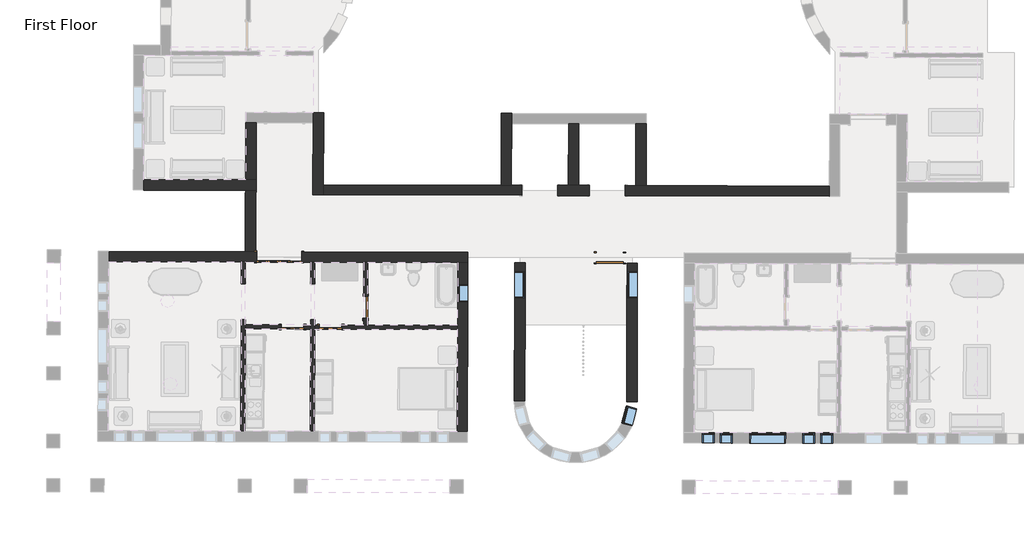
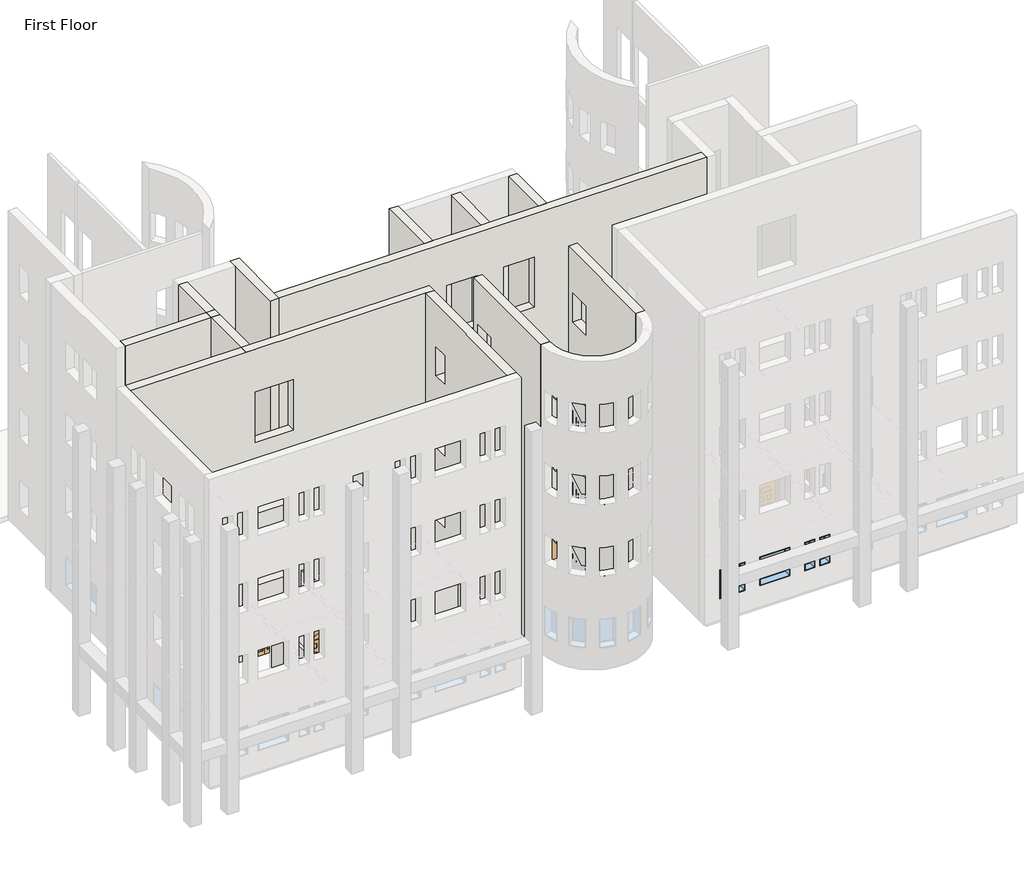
# One storey, part 3 of 23: 16 walls, 9 windows, 5 doors.
"""IFC4 building model written with IfcOpenShell, lengths in millimetres."""

from ifc_helpers import new_model, si_unit, frame, origin, origin_with_axes, place, context, project, spatial, polyline, outline, extrude, faceted_brep, transform, mapped, element, save
from components import m_bifold_4_panel_1525_x_2134mm_1ddae71f, m_single_decorative_2_0762_x_2134mm_0d0af7cb, m_single_decorative_2_0762_x_2134mm_2fe67c8e, m_single_flush_0762_x_2134mm_0d89e411, m_single_flush_0915_x_2134mm_70678a7c, m_fixed_0406_x_1220mm_57fee329, m_fixed_0406_x_1220mm_85c28f40, m_fixed_0610_x_1220mm_2c28ef1d, m_fixed_0915_x_1220mm_2a2509e7, m_fixed_1220_x_1220mm_8f5f8ad3

model = new_model("IFC4")

# Units and contexts
model_context = context("Model", 3, world=origin())
ifc_project = project(units=[si_unit("LENGTHUNIT", "METRE", prefix="MILLI")], contexts=[model_context])

# Site, building, storey
site = spatial("IfcSite", under=ifc_project)
building = spatial("IfcBuilding", under=site)
storey = spatial("IfcBuildingStorey", under=building, Name="First Floor", Elevation=0.0)

# Doors
placement = place(None, origin())
m_bifold_4_panel_1525_x_2134mm_shape = m_bifold_4_panel_1525_x_2134mm_1ddae71f(model_context)
element("IfcDoor", 1, ObjectType="M_Bifold-4 Panel : 1525 x 2134mm", at=placement, inside=storey, context=model_context, shape_type="MappedRepresentation", body=[
    mapped(m_bifold_4_panel_1525_x_2134mm_shape, transform((-29084.8596063, -35825.933405, 0.0), x_axis=(-0.9999958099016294, 0.0028948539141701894, 0.0), y_axis=(-0.0028948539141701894, -0.9999958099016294, 0.0), z_axis=(0.0, 0.0, 1.0))),
])
m_single_decorative_2_0762_x_2134mm_shape = m_single_decorative_2_0762_x_2134mm_0d0af7cb(model_context)
element("IfcDoor", 2, ObjectType="M_Single-Decorative 2 : 0762 x 2134mm", at=placement, inside=storey, context=model_context, shape_type="MappedRepresentation", body=[
    mapped(m_single_decorative_2_0762_x_2134mm_shape, transform((-28625.491904, -38204.0231719, 0.0), x_axis=(0.9999958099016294, -0.0028948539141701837, 0.0), y_axis=(0.0028948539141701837, 0.9999958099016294, 0.0), z_axis=(0.0, 0.0, 1.0))),
])
m_single_decorative_2_0762_x_2134mm_2_shape = m_single_decorative_2_0762_x_2134mm_2fe67c8e(model_context)
element("IfcDoor", 3, ObjectType="M_Single-Decorative 2 : 0762 x 2134mm", at=placement, inside=storey, context=model_context, shape_type="MappedRepresentation", body=[
    mapped(m_single_decorative_2_0762_x_2134mm_2_shape, transform((-27338.7472956, -38207.7481251, 0.0), x_axis=(-0.9999958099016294, 0.0028948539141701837, 0.0), y_axis=(-0.0028948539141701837, -0.9999958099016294, 0.0), z_axis=(0.0, 0.0, 1.0))),
])
m_single_flush_0762_x_2134mm_shape = m_single_flush_0762_x_2134mm_0d89e411(model_context)
element("IfcDoor", 4, ObjectType="M_Single-Flush : 0762 x 2134mm", at=placement, inside=storey, context=model_context, shape_type="MappedRepresentation", body=[
    mapped(m_single_flush_0762_x_2134mm_shape, transform((-26146.2902967, -37533.4472886, 0.0), x_axis=(-0.0028948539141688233, -0.9999958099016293, 0.0), y_axis=(0.9999958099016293, -0.0028948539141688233, 0.0), z_axis=(0.0, 0.0, 1.0))),
])
m_single_flush_0915_x_2134mm_shape = m_single_flush_0915_x_2134mm_70678a7c(model_context)
element("IfcDoor", 5, ObjectType="M_Single-Flush : 0915 x 2134mm", at=placement, inside=storey, context=model_context, shape_type="MappedRepresentation", body=[
    mapped(m_single_flush_0915_x_2134mm_shape, transform((-17860.906636, -35858.4252454, 0.0), x_axis=(0.9999958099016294, -0.0028948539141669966, 0.0), y_axis=(0.0028948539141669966, 0.9999958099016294, 0.0), z_axis=(0.0, 0.0, 1.0))),
])

# Walls
element("IfcWall", 6, ObjectType="Exterior - Brick on Mtl. Stud", at=placement, inside=storey, context=model_context, shape_type="Brep", body=[
    faceted_brep([(-27585.7548255, -33719.2642672, 0.0), (-27584.7416267, -33369.2657338, 0.0), (-27577.6828149, -30930.8759509, 0.0), (-27577.6828149, -30930.8759509, 13107.0), (-27584.7416267, -33369.2657338, 13107.0), (-27585.7548255, -33719.2642672, 13107.0), (-27935.753359, -33718.2510684, 0.0), (-27935.753359, -33718.2510684, 13107.0), (-27928.6945472, -31279.8612855, 13107.0), (-27928.6864352, -31277.0590728, 13107.0), (-27927.6813484, -30929.862752, 13107.0), (-27927.6813484, -30929.862752, 0.0), (-27928.6864352, -31277.0590728, 0.0), (-27928.6945472, -31279.8612855, 0.0), (-27578.1870186, -30930.8744913, 0.0), (-27578.1870186, -30930.8744913, 13107.0)], [[[0, 1, 2, 3, 4, 5]], [[6, 7, 8, 9, 10, 11, 12, 13]], [[2, 1, 0, 6, 13, 12, 11, 14]], [[5, 4, 3, 15, 10, 9, 8, 7]], [[3, 2, 14, 11, 10, 15]], [[0, 5, 7, 6]]]),
])
element("IfcWall", 7, ObjectType="Exterior - Brick on Mtl. Stud", at=placement, inside=storey, context=model_context, shape_type="Brep", body=[
    faceted_brep([(-30214.6849687, -31273.2436495, 0.0), (-30227.8258685, -35812.6246289, 0.0), (-30228.3614165, -35997.6238538, 0.0), (-30228.3614165, -35997.6238538, 13107.0), (-30214.6849687, -31273.2436495, 13107.0), (-29864.6864352, -31274.2568483, 0.0), (-29864.6864352, -31274.2568483, 13107.0), (-29877.3496842, -35648.6385192, 13107.0), (-29878.362883, -35998.6370526, 13107.0), (-29878.362883, -35998.6370526, 0.0), (-29877.827335, -35813.6378278, 0.0), (-29877.3496842, -35648.6385192, 0.0), (-30029.6857438, -31273.7791974, 0.0), (-30043.3621917, -35998.1594017, 0.0), (-30042.8266437, -35813.1601769, 0.0)], [[[0, 1, 2, 3, 4]], [[5, 6, 7, 8, 9, 10, 11]], [[4, 3, 8, 7, 6]], [[0, 4, 6, 5, 12]], [[3, 2, 13, 9, 8]], [[10, 9, 13, 14]], [[1, 0, 12, 14]], [[2, 1, 14, 13]], [[12, 5, 11, 10, 14]]]),
])
element("IfcWall", 8, ObjectType="Exterior - Brick on Mtl. Stud", at=placement, inside=storey, context=model_context, shape_type="Brep", body=[
    faceted_brep([(-18557.7794507, -33395.3975801, 0.0), (-18915.7779506, -33394.3612224, 0.0), (-19265.7764841, -33393.3480235, 0.0), (-19623.774984, -33392.3116658, 0.0), (-19623.774984, -33392.3116658, 2134.0), (-20843.7698721, -33388.779944, 2134.0), (-20843.7698721, -33388.779944, 0.0), (-21201.7683721, -33387.7435863, 0.0), (-21551.7669055, -33386.7303874, 0.0), (-27584.7416267, -33369.2657338, 0.0), (-27584.7416267, -33369.2657338, 13107.0), (-21551.7669055, -33386.7303874, 13107.0), (-21201.7683721, -33387.7435863, 13107.0), (-19265.7764841, -33393.3480235, 13107.0), (-18915.7779506, -33394.3612224, 13107.0), (-16979.7860627, -33399.9656595, 13107.0), (-16629.7875292, -33400.9788584, 13107.0), (-10408.8135958, -33418.9877446, 13107.0), (-10408.8135958, -33418.9877446, 0.0), (-16629.7875292, -33400.9788584, 0.0), (-16979.7860627, -33399.9656595, 0.0), (-17337.7845626, -33398.9293018, 0.0), (-17337.7845626, -33398.9293018, 2134.0), (-18557.7794507, -33395.3975801, 2134.0), (-20843.7698721, -33388.779944, 11278.0), (-20843.7698721, -33388.779944, 9144.0), (-19623.774984, -33392.3116658, 9144.0), (-19623.774984, -33392.3116658, 11278.0), (-17337.7845626, -33398.9293018, 11278.0), (-18557.7794507, -33395.3975801, 11278.0), (-18557.7794507, -33395.3975801, 9144.0), (-17337.7845626, -33398.9293018, 9144.0), (-20843.7698721, -33388.779944, 5182.0), (-20843.7698721, -33388.779944, 3048.0), (-19623.774984, -33392.3116658, 3048.0), (-19623.774984, -33392.3116658, 5182.0), (-17337.7845626, -33398.9293018, 5182.0), (-18557.7794507, -33395.3975801, 5182.0), (-18557.7794507, -33395.3975801, 3048.0), (-17337.7845626, -33398.9293018, 3048.0), (-20843.7698721, -33388.779944, 8230.0), (-20843.7698721, -33388.779944, 6096.0), (-19623.774984, -33392.3116658, 6096.0), (-19623.774984, -33392.3116658, 8230.0), (-17337.7845626, -33398.9293018, 8230.0), (-18557.7794507, -33395.3975801, 8230.0), (-18557.7794507, -33395.3975801, 6096.0), (-17337.7845626, -33398.9293018, 6096.0), (-19624.7881829, -33742.3101992, 2134.0), (-19624.7881829, -33742.3101992, 0.0), (-18558.7926496, -33745.3961135, 0.0), (-18558.7926496, -33745.3961135, 2134.0), (-17338.7977615, -33748.9278353, 2134.0), (-17338.7977615, -33748.9278353, 0.0), (-10409.8267947, -33768.9862781, 0.0), (-10409.8267947, -33768.9862781, 13107.0), (-27585.7548255, -33719.2642672, 13107.0), (-27585.7548255, -33719.2642672, 0.0), (-20844.783071, -33738.7784775, 0.0), (-20844.783071, -33738.7784775, 2134.0), (-20844.783071, -33738.7784775, 11278.0), (-19624.7881829, -33742.3101992, 11278.0), (-19624.7881829, -33742.3101992, 9144.0), (-20844.783071, -33738.7784775, 9144.0), (-17338.7977615, -33748.9278353, 11278.0), (-17338.7977615, -33748.9278353, 9144.0), (-18558.7926496, -33745.3961135, 9144.0), (-18558.7926496, -33745.3961135, 11278.0), (-20844.783071, -33738.7784775, 5182.0), (-19624.7881829, -33742.3101992, 5182.0), (-19624.7881829, -33742.3101992, 3048.0), (-20844.783071, -33738.7784775, 3048.0), (-17338.7977615, -33748.9278353, 5182.0), (-17338.7977615, -33748.9278353, 3048.0), (-18558.7926496, -33745.3961135, 3048.0), (-18558.7926496, -33745.3961135, 5182.0), (-20844.783071, -33738.7784775, 8230.0), (-19624.7881829, -33742.3101992, 8230.0), (-19624.7881829, -33742.3101992, 6096.0), (-20844.783071, -33738.7784775, 6096.0), (-17338.7977615, -33748.9278353, 8230.0), (-17338.7977615, -33748.9278353, 6096.0), (-18558.7926496, -33745.3961135, 6096.0), (-18558.7926496, -33745.3961135, 8230.0)], [[[0, 1, 2, 3, 4, 5, 6, 7, 8, 9, 10, 11, 12, 13, 14, 15, 16, 17, 18, 19, 20, 21, 22, 23], [24, 25, 26, 27], [28, 29, 30, 31], [32, 33, 34, 35], [36, 37, 38, 39], [40, 41, 42, 43], [44, 45, 46, 47]], [[48, 49, 50, 51, 52, 53, 54, 55, 56, 57, 58, 59], [60, 61, 62, 63], [64, 65, 66, 67], [68, 69, 70, 71], [72, 73, 74, 75], [76, 77, 78, 79], [80, 81, 82, 83]], [[58, 57, 9, 8, 7, 6]], [[50, 49, 3, 2, 1, 0]], [[21, 20, 19, 18, 54, 53]], [[17, 16, 15, 14, 13, 12, 11, 10, 56, 55]], [[10, 9, 57, 56]], [[18, 17, 55, 54]], [[53, 52, 22, 21]], [[51, 50, 0, 23]], [[52, 51, 23, 22]], [[6, 5, 59, 58]], [[4, 3, 49, 48]], [[5, 4, 48, 59]], [[25, 24, 60, 63]], [[26, 25, 63, 62]], [[27, 26, 62, 61]], [[24, 27, 61, 60]], [[65, 64, 28, 31]], [[66, 65, 31, 30]], [[67, 66, 30, 29]], [[64, 67, 29, 28]], [[33, 32, 68, 71]], [[34, 33, 71, 70]], [[35, 34, 70, 69]], [[32, 35, 69, 68]], [[73, 72, 36, 39]], [[74, 73, 39, 38]], [[75, 74, 38, 37]], [[72, 75, 37, 36]], [[41, 40, 76, 79]], [[42, 41, 79, 78]], [[43, 42, 78, 77]], [[40, 43, 77, 76]], [[81, 80, 44, 47]], [[82, 81, 47, 46]], [[83, 82, 46, 45]], [[80, 83, 45, 44]]]),
])
element("IfcWall", 9, ObjectType="Exterior - Brick on Mtl. Stud", at=placement, inside=storey, context=model_context, shape_type="SweptSolid", body=[
    extrude(outline(polyline([(1097.9999999, 0.0), (5800.0, 0.0), (5800.0, -13107.0), (1097.9999999, -13107.0), (1097.9999999, 0.0)]), holes=[polyline([(4602.4999999, -915.0), (4602.4999999, -2135.0), (5517.5, -2135.0), (5517.5, -915.0), (4602.4999999, -915.0)]), polyline([(4602.4999999, -10059.0), (4602.4999999, -11279.0), (5517.5, -11279.0), (5517.5, -10059.0), (4602.4999999, -10059.0)]), polyline([(4602.4999999, -3963.0), (4602.4999999, -5183.0), (5517.5, -5183.0), (5517.5, -3963.0), (4602.4999999, -3963.0)]), polyline([(4602.4999999, -7011.0), (4602.4999999, -8231.0), (5517.5, -8231.0), (5517.5, -7011.0), (4602.4999999, -7011.0)])]), frame((-20751.19135, -41825.0832942, 0.0), z_axis=(-0.9999958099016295, 0.002894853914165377, 0.0), x_axis=(0.002894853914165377, 0.9999958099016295, 0.0)), (0.0, 0.0, 1.0), 350.0),
])
element("IfcWall", 10, ObjectType="Exterior - Brick on Mtl. Stud", at=placement, inside=storey, context=model_context, shape_type="SweptSolid", body=[
    extrude(outline(polyline([(-175.0, 0.0), (-175.0, -13107.0), (-4877.0, -13107.0), (-4877.0, 0.0), (-175.0, 0.0)]), holes=[polyline([(-457.5, -915.0), (-1372.5, -915.0), (-1372.5, -2135.0), (-457.5, -2135.0), (-457.5, -915.0)]), polyline([(-457.5, -10059.0), (-1372.5, -10059.0), (-1372.5, -11279.0), (-457.5, -11279.0), (-457.5, -10059.0)]), polyline([(-457.5, -3963.0), (-1372.5, -3963.0), (-1372.5, -5183.0), (-457.5, -5183.0), (-457.5, -3963.0)]), polyline([(-457.5, -7011.0), (-1372.5, -7011.0), (-1372.5, -8231.0), (-457.5, -8231.0), (-457.5, -7011.0)])]), frame((-16923.9105621, -35861.1377235, 0.0), z_axis=(-0.9999958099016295, 0.0028948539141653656, 0.0), x_axis=(0.0028948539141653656, 0.9999958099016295, 0.0)), (0.0, 0.0, 1.0), 350.0),
])
element("IfcWall", 11, ObjectType="Exterior - Brick on Mtl. Stud", at=placement, inside=storey, context=model_context, shape_type="Brep", body=[
    faceted_brep([(-21201.7683721, -33387.7435863, 0.0), (-21195.7227592, -31299.3523369, 0.0), (-21194.7095603, -30949.3538034, 0.0), (-21194.7095603, -30949.3538034, 13107.0), (-21195.7227592, -31299.3523369, 13107.0), (-21201.7683721, -33387.7435863, 13107.0), (-21551.7669055, -33386.7303874, 0.0), (-21551.7669055, -33386.7303874, 13107.0), (-21544.7080937, -30948.3406046, 13107.0), (-21544.7080937, -30948.3406046, 0.0)], [[[0, 1, 2, 3, 4, 5]], [[6, 7, 8, 9]], [[2, 1, 0, 6, 9]], [[5, 4, 3, 8, 7]], [[0, 5, 7, 6]], [[3, 2, 9, 8]]]),
])
element("IfcWall", 12, ObjectType="Exterior - Brick on Mtl. Stud", at=placement, inside=storey, context=model_context, shape_type="SweptSolid", body=[
    extrude(outline(polyline([(-16979.7860627, -33399.9656595), (-16973.7404497, -31311.5744101), (-16623.7419163, -31312.587609), (-16629.7875292, -33400.9788584), (-16979.7860627, -33399.9656595)])), origin_with_axes(), (0.0, 0.0, 1.0), 13107.0),
])
element("IfcWall", 13, ObjectType="Exterior - Brick on Mtl. Stud", at=placement, inside=storey, context=model_context, shape_type="SweptSolid", body=[
    extrude(outline(polyline([(-19265.7764841, -33393.3480235), (-19259.7308712, -31304.9567741), (-18909.7323377, -31305.969973), (-18915.7779506, -33394.3612224), (-19265.7764841, -33393.3480235)])), origin_with_axes(), (0.0, 0.0, 1.0), 13107.0),
])
element("IfcWall", 14, ObjectType="Exterior - Brick on Mtl. Stud", at=placement, inside=storey, context=model_context, shape_type="Brep", body=[
    faceted_brep([(-22676.1430612, -36019.4865142, 13107.0), (-23026.1415946, -36018.4733154, 13107.0), (-34868.0919755, -35984.1924553, 13107.0), (-34868.0919755, -35984.1924553, 0.0), (-30363.8608487, -35997.2316011, 0.0), (-30228.3614165, -35997.6238538, 0.0), (-29847.8630108, -35998.7253457, 0.0), (-29847.8630108, -35998.7253457, 2134.0), (-28322.8694007, -36003.1399979, 2134.0), (-28322.8694007, -36003.1399979, 0.0), (-28010.1207112, -36004.0453635, 0.0), (-27874.6212789, -36004.4376162, 0.0), (-26209.6282554, -36009.2575479, 0.0), (-26074.1288232, -36009.6498006, 0.0), (-23026.1415946, -36018.4733154, 0.0), (-22676.1430612, -36019.4865142, 0.0), (-29847.8630108, -35998.7253457, 9144.0), (-29847.8630108, -35998.7253457, 11278.0), (-28322.8694007, -36003.1399979, 11278.0), (-28322.8694007, -36003.1399979, 9144.0), (-29847.8630108, -35998.7253457, 3048.0), (-29847.8630108, -35998.7253457, 5182.0), (-28322.8694007, -36003.1399979, 5182.0), (-28322.8694007, -36003.1399979, 3048.0), (-29847.8630108, -35998.7253457, 6096.0), (-29847.8630108, -35998.7253457, 8230.0), (-28322.8694007, -36003.1399979, 8230.0), (-28322.8694007, -36003.1399979, 6096.0), (-34867.0787766, -35634.1939218, 13107.0), (-22675.1298623, -35669.4879808, 13107.0), (-22675.1298623, -35669.4879808, 0.0), (-28321.8562019, -35653.1414644, 0.0), (-28321.8562018, -35653.1414644, 2134.0), (-29846.849812, -35648.7268122, 2134.0), (-29846.849812, -35648.7268122, 0.0), (-34867.0787766, -35634.1939218, 0.0), (-29846.849812, -35648.7268122, 9144.0), (-28321.8562019, -35653.1414644, 9144.0), (-28321.8562019, -35653.1414644, 11278.0), (-29846.849812, -35648.7268122, 11278.0), (-29846.849812, -35648.7268122, 3048.0), (-28321.8562019, -35653.1414644, 3048.0), (-28321.8562019, -35653.1414644, 5182.0), (-29846.849812, -35648.7268122, 5182.0), (-29846.849812, -35648.7268122, 6096.0), (-28321.8562019, -35653.1414644, 6096.0), (-28321.8562019, -35653.1414644, 8230.0), (-29846.849812, -35648.7268122, 8230.0)], [[[0, 1, 2, 3, 4, 5, 6, 7, 8, 9, 10, 11, 12, 13, 14, 15], [16, 17, 18, 19], [20, 21, 22, 23], [24, 25, 26, 27]], [[28, 29, 30, 31, 32, 33, 34, 35], [36, 37, 38, 39], [40, 41, 42, 43], [44, 45, 46, 47]], [[3, 35, 34, 6, 5, 4]], [[30, 15, 14, 13, 12, 11, 10, 9, 31]], [[2, 1, 0, 29, 28]], [[3, 2, 28, 35]], [[0, 15, 30, 29]], [[33, 7, 6, 34]], [[7, 33, 32, 8]], [[8, 32, 31, 9]], [[17, 16, 36, 39]], [[18, 17, 39, 38]], [[19, 18, 38, 37]], [[16, 19, 37, 36]], [[21, 20, 40, 43]], [[22, 21, 43, 42]], [[23, 22, 42, 41]], [[20, 23, 41, 40]], [[25, 24, 44, 47]], [[26, 25, 47, 46]], [[27, 26, 46, 45]], [[24, 27, 45, 44]]]),
])
element("IfcWall", 15, ObjectType="Exterior - Brick on Mtl. Stud", at=placement, inside=storey, context=model_context, shape_type="Brep", body=[
    faceted_brep([(-23026.1415946, -36018.4733154, 0.0), (-23032.3192129, -38152.4643737, 0.0), (-23032.7114656, -38287.9638059, 0.0), (-23042.7754252, -41764.4492391, 0.0), (-23042.7754252, -41764.4492391, 13107.0), (-23026.1415946, -36018.4733154, 13107.0), (-23030.0496474, -37368.4676587, 915.0), (-23028.2837865, -36758.4702147, 915.0), (-23028.2837865, -36758.4702147, 2135.0), (-23030.0496474, -37368.4676587, 2135.0), (-23030.0496474, -37368.4676587, 10059.0), (-23028.2837865, -36758.4702147, 10059.0), (-23028.2837865, -36758.4702147, 11279.0), (-23030.0496474, -37368.4676587, 11279.0), (-23030.0496474, -37368.4676587, 3963.0), (-23028.2837865, -36758.4702147, 3963.0), (-23028.2837865, -36758.4702147, 5183.0), (-23030.0496474, -37368.4676587, 5183.0), (-23030.0496474, -37368.4676587, 7011.0), (-23028.2837865, -36758.4702147, 7011.0), (-23028.2837865, -36758.4702147, 8231.0), (-23030.0496474, -37368.4676587, 8231.0), (-22676.1430612, -36019.4865142, 0.0), (-22676.1430612, -36019.4865142, 13107.0), (-22692.7768917, -41765.4624379, 13107.0), (-22692.7768917, -41765.4624379, 0.0), (-22680.0511139, -37369.4808576, 915.0), (-22680.0511139, -37369.4808576, 2135.0), (-22678.2852531, -36759.4834136, 2135.0), (-22678.2852531, -36759.4834136, 915.0), (-22680.0511139, -37369.4808576, 10059.0), (-22680.0511139, -37369.4808576, 11279.0), (-22678.2852531, -36759.4834136, 11279.0), (-22678.2852531, -36759.4834136, 10059.0), (-22680.0511139, -37369.4808576, 3963.0), (-22680.0511139, -37369.4808576, 5183.0), (-22678.2852531, -36759.4834136, 5183.0), (-22678.2852531, -36759.4834136, 3963.0), (-22680.0511139, -37369.4808576, 7011.0), (-22680.0511139, -37369.4808576, 8231.0), (-22678.2852531, -36759.4834136, 8231.0), (-22678.2852531, -36759.4834136, 7011.0), (-22861.142286, -36018.9509663, 0.0), (-22877.7761166, -41764.9268899, 0.0)], [[[0, 1, 2, 3, 4, 5], [6, 7, 8, 9], [10, 11, 12, 13], [14, 15, 16, 17], [18, 19, 20, 21]], [[22, 23, 24, 25], [26, 27, 28, 29], [30, 31, 32, 33], [34, 35, 36, 37], [38, 39, 40, 41]], [[5, 4, 24, 23]], [[0, 5, 23, 22, 42]], [[4, 3, 43, 25, 24]], [[27, 26, 6, 9]], [[28, 27, 9, 8]], [[29, 28, 8, 7]], [[26, 29, 7, 6]], [[42, 22, 25, 43]], [[3, 2, 1, 0, 42, 43]], [[31, 30, 10, 13]], [[32, 31, 13, 12]], [[33, 32, 12, 11]], [[30, 33, 11, 10]], [[35, 34, 14, 17]], [[36, 35, 17, 16]], [[37, 36, 16, 15]], [[34, 37, 15, 14]], [[39, 38, 18, 21]], [[40, 39, 21, 20]], [[41, 40, 20, 19]], [[38, 41, 19, 18]]]),
])
element("IfcWall", 16, ObjectType="Exterior - Brick on Mtl. Stud", at=placement, inside=storey, context=model_context, shape_type="Brep", body=[
    faceted_brep([(-33677.9912656, -33554.7397512, 0.0), (-30052.9950629, -33559.9866794, 0.0), (-29867.9952567, -33560.2544537, 0.0), (-29867.9952567, -33560.2544537, 13107.0), (-33677.9912656, -33554.7397512, 13107.0), (-33677.4846656, -33204.7401178, 0.0), (-33677.4846656, -33204.7401178, 13107.0), (-30217.4882901, -33209.7482204, 13107.0), (-29867.4886567, -33210.2548203, 13107.0), (-29867.4886567, -33210.2548203, 0.0), (-30052.4884629, -33209.9870461, 0.0), (-30217.4882901, -33209.7482204, 0.0), (-33677.7234913, -33369.739945, 0.0), (-29867.7274824, -33375.2546475, 0.0), (-30052.7272886, -33374.9868732, 0.0)], [[[0, 1, 2, 3, 4]], [[5, 6, 7, 8, 9, 10, 11]], [[4, 3, 8, 7, 6]], [[0, 4, 6, 5, 12]], [[3, 2, 13, 9, 8]], [[10, 9, 13, 14]], [[1, 0, 12, 14]], [[2, 1, 14, 13]], [[12, 5, 11, 10, 14]]]),
])
element("IfcWall", 17, ObjectType="Exterior - Brick on Mtl. Stud", at=placement, inside=storey, context=model_context, shape_type="Brep", body=[
    faceted_brep([(-29867.4886567, -33210.2548203, 0.0), (-29864.6864352, -31274.2568483, 0.0), (-29864.6864352, -31274.2568483, 13107.0), (-29867.4886567, -33210.2548203, 13107.0), (-30217.4882901, -33209.7482204, 0.0), (-30217.4882901, -33209.7482204, 13107.0), (-30214.6853353, -31273.2436484, 13107.0), (-30214.6853353, -31273.2436484, 0.0), (-30052.4884629, -33209.9870461, 0.0), (-30049.6858538, -31273.7212998, 0.0)], [[[0, 1, 2, 3]], [[4, 5, 6, 7]], [[3, 2, 6, 5]], [[0, 3, 5, 4, 8]], [[1, 0, 8, 9]], [[8, 4, 7, 9]], [[2, 1, 9, 7, 6]]]),
])
element("IfcWall", 18, ObjectType="Interior - 135mm Partition (2-hr)", at=placement, inside=storey, context=model_context, shape_type="Brep", body=[
    faceted_brep([(-30244.9952471, -41743.5997775, 0.0), (-30234.9312874, -38267.1143443, 0.0), (-30234.5390347, -38131.6149121, 0.0), (-30234.0324353, -37956.6156454, 0.0), (-30234.0324353, -37956.6156454, 2134.0), (-30230.5007135, -36736.6207573, 2134.0), (-30230.5007135, -36736.6207573, 0.0), (-30228.3614165, -35997.6238538, 0.0), (-30228.3614165, -35997.6238538, 3048.0), (-30234.5390347, -38131.6149121, 3048.0), (-30234.9312874, -38267.1143443, 3048.0), (-30244.9952471, -41743.5997775, 3048.0), (-30369.5318675, -37956.2233926, 2134.0), (-30369.5318675, -37956.2233926, 0.0), (-30380.4946793, -41743.2075247, 0.0), (-30380.4946793, -41743.2075247, 3048.0), (-30363.8608487, -35997.2316011, 3048.0), (-30363.8608487, -35997.2316011, 0.0), (-30366.0001458, -36736.2285046, 0.0), (-30366.0001458, -36736.2285046, 2134.0)], [[[0, 1, 2, 3, 4, 5, 6, 7, 8, 9, 10, 11]], [[12, 13, 14, 15, 16, 17, 18, 19]], [[18, 17, 7, 6]], [[14, 13, 3, 2, 1, 0]], [[11, 10, 9, 8, 16, 15]], [[0, 11, 15, 14]], [[8, 7, 17, 16]], [[6, 5, 19, 18]], [[4, 3, 13, 12]], [[5, 4, 12, 19]]]),
])
element("IfcWall", 19, ObjectType="Interior - 135mm Partition (2-hr)", at=placement, inside=storey, context=model_context, shape_type="Brep", body=[
    faceted_brep([(-27876.760576, -36743.4345197, 2134.0), (-27876.760576, -36743.4345197, 0.0), (-27874.6212789, -36004.4376162, 0.0), (-27874.6212789, -36004.4376162, 3048.0), (-27880.7988972, -38138.4286745, 3048.0), (-27881.1911499, -38273.9281067, 3048.0), (-27891.2551095, -41750.4135399, 3048.0), (-27891.2551095, -41750.4135399, 0.0), (-27881.1911499, -38273.9281067, 0.0), (-27880.7988972, -38138.4286745, 0.0), (-27880.2922977, -37963.4294078, 0.0), (-27880.2922977, -37963.4294078, 2134.0), (-28010.1207112, -36004.0453635, 0.0), (-28012.2600082, -36743.042267, 0.0), (-28012.2600082, -36743.042267, 2134.0), (-28015.79173, -37963.037155, 2134.0), (-28015.79173, -37963.037155, 0.0), (-28016.2983294, -38138.0364218, 0.0), (-28016.6905821, -38273.535854, 0.0), (-28026.7545418, -41750.0212871, 0.0), (-28026.7545418, -41750.0212871, 3048.0), (-28016.6905821, -38273.535854, 3048.0), (-28016.2983294, -38138.0364218, 3048.0), (-28010.1207112, -36004.0453635, 3048.0)], [[[0, 1, 2, 3, 4, 5, 6, 7, 8, 9, 10, 11]], [[12, 13, 14, 15, 16, 17, 18, 19, 20, 21, 22, 23]], [[2, 1, 13, 12]], [[10, 9, 8, 7, 19, 18, 17, 16]], [[6, 5, 4, 3, 23, 22, 21, 20]], [[7, 6, 20, 19]], [[3, 2, 12, 23]], [[16, 15, 11, 10]], [[14, 13, 1, 0]], [[15, 14, 0, 11]]]),
])
element("IfcWall", 20, ObjectType="Interior - 135mm Partition (2-hr)", at=placement, inside=storey, context=model_context, shape_type="Brep", body=[
    faceted_brep([(-23032.3192129, -38152.4643737, 3048.0), (-23032.3192129, -38152.4643737, 0.0), (-26080.3064415, -38143.640859, 0.0), (-26215.8058737, -38143.2486063, 0.0), (-26957.5527657, -38141.1013484, 0.0), (-26957.5527657, -38141.1013484, 2134.0), (-27719.5495728, -38138.8954697, 2134.0), (-27719.5495728, -38138.8954697, 0.0), (-27880.7988972, -38138.4286745, 0.0), (-27880.7988972, -38138.4286745, 3048.0), (-26215.8058737, -38143.2486063, 3048.0), (-26080.3064415, -38143.640859, 3048.0), (-23032.7114656, -38287.9638059, 0.0), (-23032.7114656, -38287.9638059, 3048.0), (-27881.1911499, -38273.9281067, 3048.0), (-27881.1911499, -38273.9281067, 0.0), (-27719.9418255, -38274.3949019, 0.0), (-27719.9418255, -38274.3949019, 2134.0), (-26957.9450184, -38276.6007806, 2134.0), (-26957.9450184, -38276.6007806, 0.0)], [[[0, 1, 2, 3, 4, 5, 6, 7, 8, 9, 10, 11]], [[12, 13, 14, 15, 16, 17, 18, 19]], [[1, 12, 19, 4, 3, 2]], [[7, 16, 15, 8]], [[13, 0, 11, 10, 9, 14]], [[1, 0, 13, 12]], [[9, 8, 15, 14]], [[17, 16, 7, 6]], [[18, 17, 6, 5]], [[19, 18, 5, 4]]]),
    faceted_brep([(-30234.5390347, -38131.6149121, 0.0), (-30234.5390347, -38131.6149121, 3048.0), (-28016.2983294, -38138.0364218, 3048.0), (-28016.2983294, -38138.0364218, 0.0), (-28244.2973741, -38137.3763951, 0.0), (-28244.2973741, -38137.3763951, 2134.0), (-29006.2941812, -38135.1705164, 2134.0), (-29006.2941812, -38135.1705164, 0.0), (-30234.9312874, -38267.1143443, 3048.0), (-30234.9312874, -38267.1143443, 0.0), (-29006.6864339, -38270.6699486, 0.0), (-29006.6864339, -38270.6699486, 2134.0), (-28244.6896268, -38272.8758273, 2134.0), (-28244.6896268, -38272.8758273, 0.0), (-28016.6905821, -38273.535854, 0.0), (-28016.6905821, -38273.535854, 3048.0)], [[[0, 1, 2, 3, 4, 5, 6, 7]], [[8, 9, 10, 11, 12, 13, 14, 15]], [[9, 0, 7, 10]], [[13, 4, 3, 14]], [[1, 8, 15, 2]], [[1, 0, 9, 8]], [[3, 2, 15, 14]], [[5, 4, 13, 12]], [[6, 5, 12, 11]], [[7, 6, 11, 10]]]),
])
element("IfcWall", 21, ObjectType="Interior - 135mm Partition (2-hr)", at=placement, inside=storey, context=model_context, shape_type="SweptSolid", body=[
    extrude(outline(polyline([(-2309.0, 0.0), (-2080.0, 0.0), (-2080.0, -2134.0), (-1317.9999999, -2134.0), (-1317.9999999, 0.0), (-175.0, 0.0), (-175.0, -3048.0), (-2309.0, -3048.0), (-2309.0, 0.0)])), frame((-26073.6222238, -35834.6505339, 0.0), z_axis=(-0.9999958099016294, 0.0028948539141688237, 0.0), x_axis=(0.0028948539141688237, 0.9999958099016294, 0.0)), (0.0, 0.0, 1.0), 135.5),
])

# Windows
m_fixed_0406_x_1220mm_shape = m_fixed_0406_x_1220mm_57fee329(model_context)
element("IfcWindow", 22, ObjectType="M_Fixed : 0406 x 1220mm", at=placement, inside=storey, context=model_context, shape_type="MappedRepresentation", body=[
    mapped(m_fixed_0406_x_1220mm_shape, transform((-10500.8722121, -41988.7571565, 0.0), x_axis=(0.9999958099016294, -0.002894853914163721, 0.0), y_axis=(0.002894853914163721, 0.9999958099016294, 0.0), z_axis=(0.0, 0.0, 1.0))),
])
element("IfcWindow", 23, ObjectType="M_Fixed : 0406 x 1220mm", at=placement, inside=storey, context=model_context, shape_type="MappedRepresentation", body=[
    mapped(m_fixed_0406_x_1220mm_shape, transform((-11110.8696561, -41986.9912956, 0.0), x_axis=(0.9999958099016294, -0.002894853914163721, 0.0), y_axis=(0.002894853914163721, 0.9999958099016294, 0.0), z_axis=(0.0, 0.0, 1.0))),
])
m_fixed_0406_x_1220mm_2_shape = m_fixed_0406_x_1220mm_85c28f40(model_context)
element("IfcWindow", 24, ObjectType="M_Fixed : 0406 x 1220mm", at=placement, inside=storey, context=model_context, shape_type="MappedRepresentation", body=[
    mapped(m_fixed_0406_x_1220mm_2_shape, transform((-14514.855393, -41977.1372129, 0.0), x_axis=(-0.9999958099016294, 0.002894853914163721, 0.0), y_axis=(-0.002894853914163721, -0.9999958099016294, 0.0), z_axis=(0.0, 0.0, 1.0))),
])
element("IfcWindow", 25, ObjectType="M_Fixed : 0406 x 1220mm", at=placement, inside=storey, context=model_context, shape_type="MappedRepresentation", body=[
    mapped(m_fixed_0406_x_1220mm_2_shape, transform((-13904.857949, -41978.9030738, 0.0), x_axis=(-0.9999958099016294, 0.002894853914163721, 0.0), y_axis=(-0.002894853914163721, -0.9999958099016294, 0.0), z_axis=(0.0, 0.0, 1.0))),
])
m_fixed_0610_x_1220mm_shape = m_fixed_0610_x_1220mm_2c28ef1d(model_context)
element("IfcWindow", 26, ObjectType="M_Fixed : 0610 x 1220mm", at=placement, inside=storey, context=model_context, shape_type="MappedRepresentation", body=[
    mapped(m_fixed_0610_x_1220mm_shape, transform((-17192.9734341, -41226.7827416, 0.0), x_axis=(0.2616141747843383, 0.9651725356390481, 0.0), y_axis=(-0.9651725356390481, 0.2616141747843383, 0.0), z_axis=(0.0, 0.0, 1.0))),
])
element("IfcWindow", 27, ObjectType="M_Fixed : 0610 x 1220mm", at=placement, inside=storey, context=model_context, shape_type="MappedRepresentation", body=[
    mapped(m_fixed_0610_x_1220mm_shape, transform((-22841.1675047, -37064.0131692, 0.0), x_axis=(0.0028948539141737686, 0.9999958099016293, 0.0), y_axis=(-0.9999958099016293, 0.0028948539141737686, 0.0), z_axis=(0.0, 0.0, 1.0))),
])
m_fixed_0915_x_1220mm_shape = m_fixed_0915_x_1220mm_2a2509e7(model_context)
element("IfcWindow", 28, ObjectType="M_Fixed : 0915 x 1220mm", at=placement, inside=storey, context=model_context, shape_type="MappedRepresentation", body=[
    mapped(m_fixed_0915_x_1220mm_shape, transform((-20924.5426014, -36764.5602636, 0.0), x_axis=(0.002894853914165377, 0.9999958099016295, 0.0), y_axis=(-0.9999958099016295, 0.002894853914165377, 0.0), z_axis=(0.0, 0.0, 1.0))),
])
element("IfcWindow", 29, ObjectType="M_Fixed : 0915 x 1220mm", at=placement, inside=storey, context=model_context, shape_type="MappedRepresentation", body=[
    mapped(m_fixed_0915_x_1220mm_shape, transform((-17088.5586747, -36775.6649232, 0.0), x_axis=(-0.0028948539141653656, -0.9999958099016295, 0.0), y_axis=(0.9999958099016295, -0.0028948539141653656, 0.0), z_axis=(0.0, 0.0, 1.0))),
])
m_fixed_1220_x_1220mm_shape = m_fixed_1220_x_1220mm_8f5f8ad3(model_context)
element("IfcWindow", 30, ObjectType="M_Fixed : 1220 x 1220mm", at=placement, inside=storey, context=model_context, shape_type="MappedRepresentation", body=[
    mapped(m_fixed_1220_x_1220mm_shape, transform((-12507.8638025, -41982.9471847, 0.0), x_axis=(-0.9999958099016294, 0.002894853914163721, 0.0), y_axis=(-0.002894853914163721, -0.9999958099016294, 0.0), z_axis=(0.0, 0.0, 1.0))),
])

save(model, "model.ifc")
